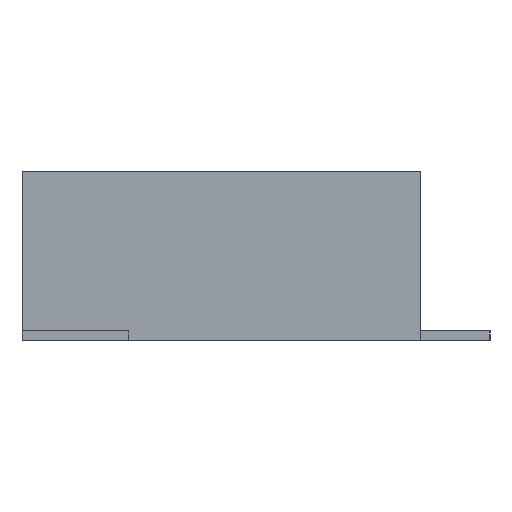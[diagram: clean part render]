
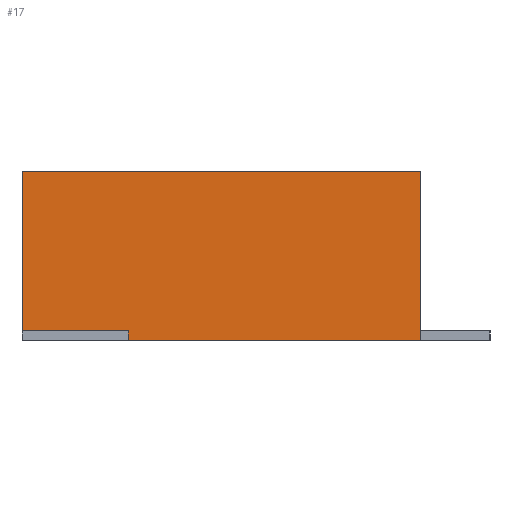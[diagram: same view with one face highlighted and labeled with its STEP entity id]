
A CAD part, left-side view. The second image highlights one B-rep face of the part: STEP entity #17.
In plain terms, the highlighted planar face has unit normal (-1, 0, 0).
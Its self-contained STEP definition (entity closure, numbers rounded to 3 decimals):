
#17 = ADVANCED_FACE('',(#18),#52,.F.);
#18 = FACE_BOUND('',#19,.F.);
#19 = EDGE_LOOP('',(#20,#30,#38,#46));
#20 = ORIENTED_EDGE('',*,*,#21,.F.);
#21 = EDGE_CURVE('',#22,#24,#26,.T.);
#22 = VERTEX_POINT('',#23);
#23 = CARTESIAN_POINT('',(-22.45,0.55,0.));
#24 = VERTEX_POINT('',#25);
#25 = CARTESIAN_POINT('',(-22.45,0.55,2.55));
#26 = LINE('',#27,#28);
#27 = CARTESIAN_POINT('',(-22.45,0.55,0.));
#28 = VECTOR('',#29,1.);
#29 = DIRECTION('',(0.,0.,1.));
#30 = ORIENTED_EDGE('',*,*,#31,.T.);
#31 = EDGE_CURVE('',#22,#32,#34,.T.);
#32 = VERTEX_POINT('',#33);
#33 = CARTESIAN_POINT('',(-22.45,6.55,0.));
#34 = LINE('',#35,#36);
#35 = CARTESIAN_POINT('',(-22.45,0.55,0.));
#36 = VECTOR('',#37,1.);
#37 = DIRECTION('',(-0.,1.,0.));
#38 = ORIENTED_EDGE('',*,*,#39,.T.);
#39 = EDGE_CURVE('',#32,#40,#42,.T.);
#40 = VERTEX_POINT('',#41);
#41 = CARTESIAN_POINT('',(-22.45,6.55,2.55));
#42 = LINE('',#43,#44);
#43 = CARTESIAN_POINT('',(-22.45,6.55,0.));
#44 = VECTOR('',#45,1.);
#45 = DIRECTION('',(0.,0.,1.));
#46 = ORIENTED_EDGE('',*,*,#47,.F.);
#47 = EDGE_CURVE('',#24,#40,#48,.T.);
#48 = LINE('',#49,#50);
#49 = CARTESIAN_POINT('',(-22.45,0.55,2.55));
#50 = VECTOR('',#51,1.);
#51 = DIRECTION('',(-0.,1.,0.));
#52 = PLANE('',#53);
#53 = AXIS2_PLACEMENT_3D('',#54,#55,#56);
#54 = CARTESIAN_POINT('',(-22.45,0.55,0.));
#55 = DIRECTION('',(1.,0.,-0.));
#56 = DIRECTION('',(0.,0.,1.));
